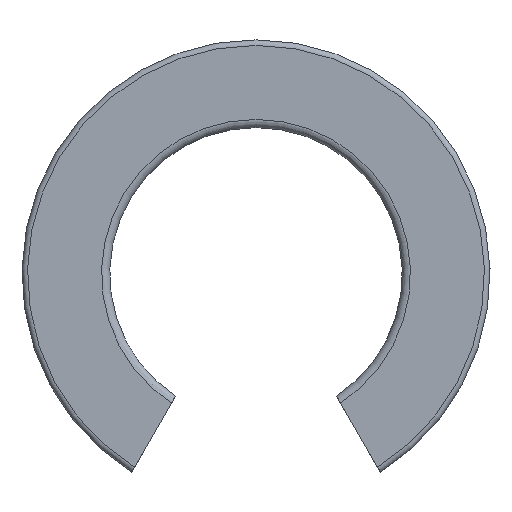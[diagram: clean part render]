
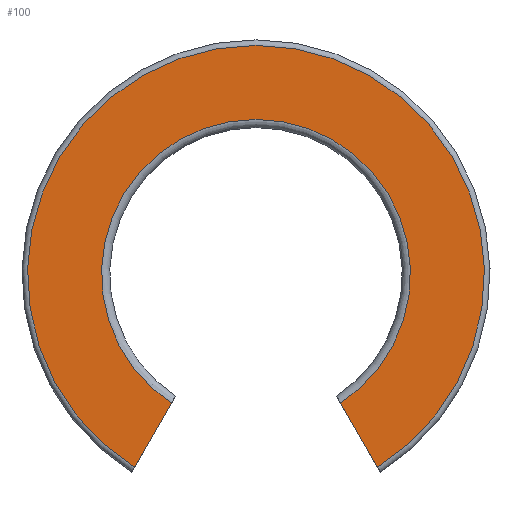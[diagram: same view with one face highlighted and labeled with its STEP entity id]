
A CAD part, left-side view. The second image highlights one B-rep face of the part: STEP entity #100.
In plain terms, the highlighted planar face has unit normal (-1, 0, 0).
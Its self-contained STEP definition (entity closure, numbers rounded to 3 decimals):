
#100=ADVANCED_FACE('',(#152),#153,.F.);
#152=FACE_OUTER_BOUND('',#204,.T.);
#153=PLANE('',#205);
#204=EDGE_LOOP('',(#421,#422,#423,#424));
#205=AXIS2_PLACEMENT_3D('',#425,#426,#427);
#421=ORIENTED_EDGE('',*,*,#432,.F.);
#422=ORIENTED_EDGE('',*,*,#499,.F.);
#423=ORIENTED_EDGE('',*,*,#494,.F.);
#424=ORIENTED_EDGE('',*,*,#455,.T.);
#425=CARTESIAN_POINT('',(0.0,15.619,0.0));
#426=DIRECTION('',(1.0,0.0,0.0));
#427=DIRECTION('',(0.0,0.0,-1.0));
#432=EDGE_CURVE('',#507,#509,#510,.T.);
#455=EDGE_CURVE('',#553,#509,#554,.T.);
#494=EDGE_CURVE('',#553,#613,#614,.T.);
#499=EDGE_CURVE('',#613,#507,#619,.T.);
#507=VERTEX_POINT('',#634);
#509=VERTEX_POINT('',#641);
#510=LINE('',#642,#643);
#553=VERTEX_POINT('',#718);
#554=CIRCLE('',#719,15.619);
#613=VERTEX_POINT('',#807);
#614=LINE('',#808,#809);
#619=CIRCLE('',#819,10.558);
#634=CARTESIAN_POINT('',(0.0,5.779,-8.836));
#641=CARTESIAN_POINT('',(0.0,8.313,-13.223));
#642=CARTESIAN_POINT('',(0.0,4.413,-6.47));
#643=VECTOR('',#822,1.0);
#718=CARTESIAN_POINT('',(0.0,-8.313,-13.223));
#719=AXIS2_PLACEMENT_3D('',#846,#847,#848);
#807=CARTESIAN_POINT('',(0.0,-5.779,-8.836));
#808=CARTESIAN_POINT('',(0.0,3.396,7.057));
#809=VECTOR('',#919,1.0);
#819=AXIS2_PLACEMENT_3D('',#929,#930,#931);
#822=DIRECTION('',(0.0,0.5,-0.866));
#846=CARTESIAN_POINT('',(0.0,0.0,0.0));
#847=DIRECTION('',(-1.0,0.0,0.0));
#848=DIRECTION('',(0.0,0.0,1.0));
#919=DIRECTION('',(0.0,0.5,0.866));
#929=CARTESIAN_POINT('',(0.0,0.0,0.0));
#930=DIRECTION('',(-1.0,0.0,0.0));
#931=DIRECTION('',(0.0,0.0,1.0));
